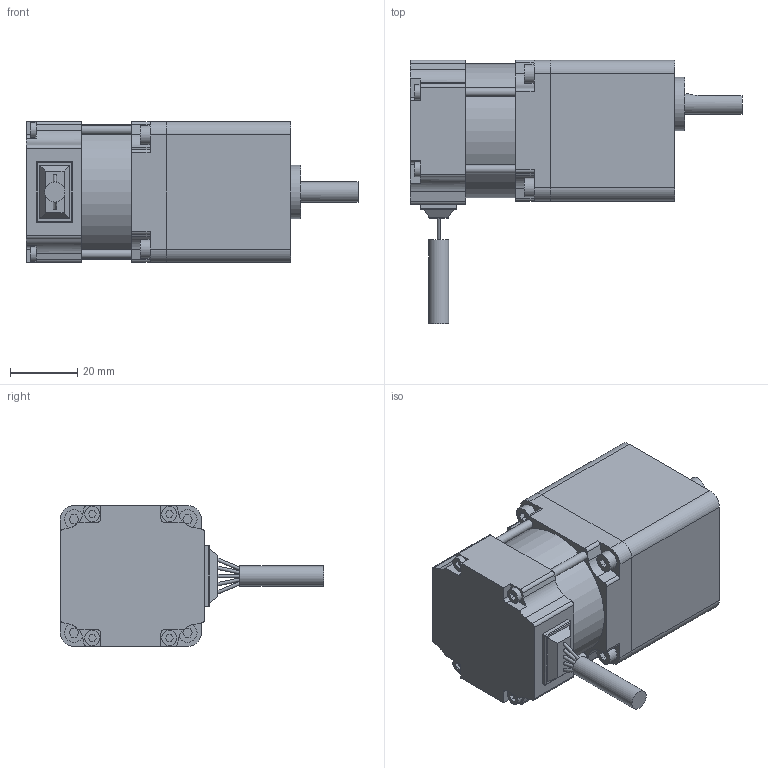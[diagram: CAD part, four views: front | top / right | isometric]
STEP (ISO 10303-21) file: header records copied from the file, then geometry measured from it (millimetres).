
FILE_DESCRIPTION(/* description */ ('STEP AP203'),/* implementation_level */ '2;1');
FILE_NAME(/* name */ 'BLHM015K-20_(0)',/* time_stamp */ '2026-07-31T12:32:39+02:00',/* author */ ('License CC BY-ND 4.0'),/* organization */ ('CADENAS'),/* preprocessor_version */ 'ST-DEVELOPER v20',/* originating_system */ 'PARTsolutions',/* authorisation */ ' ');
FILE_SCHEMA (('CONFIG_CONTROL_DESIGN'));
Length unit declared in the file: millimetre
Products named in the file (3): BLHM015K-20_(0); BLH015K(20,0)-Gearhead; BLH015K-Motor
Assembly tree (2 placements, depth 2):
  BLHM015K-20_(0)
    BLH015K(20,0)-Gearhead
    BLH015K-Motor
Bounding box: 99 x 78.5 x 42 mm (x, y, z)
Volume: 129765.8 mm3; surface area: 22315.4 mm2
Topology: 2 solids, 2 shells, 205 faces, 528 edges, 352 vertices
Faces by surface type: plane 130, cylinder 67, cone 8
Full cylindrical faces by diameter (mm): 1 x5, 2.6 x4, 3.242 x4, 4.5 x4, 5.6 x4, 6 x2, 16 x1, 37.6 x1, 40 x1
Entity records: 6034 total; most frequent: CARTESIAN_POINT 1038, DIRECTION 1028, ORIENTED_EDGE 954, EDGE_CURVE 477, AXIS2_PLACEMENT_3D 344, LINE 340, VECTOR 340, VERTEX_POINT 339
